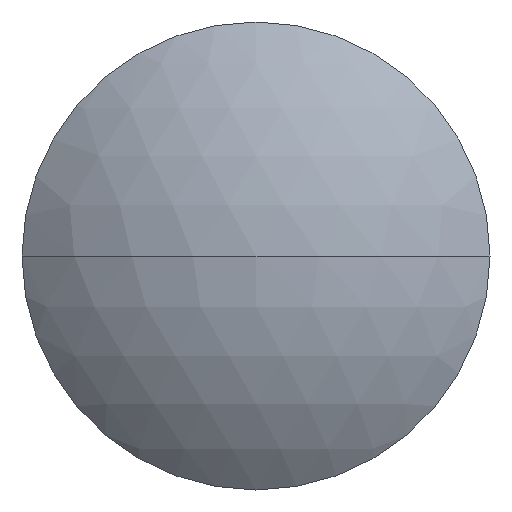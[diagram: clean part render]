
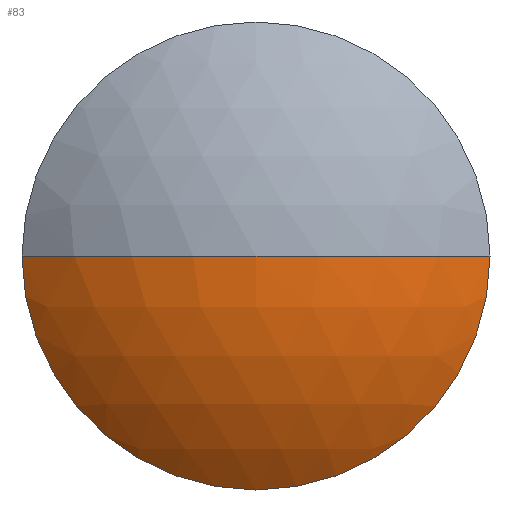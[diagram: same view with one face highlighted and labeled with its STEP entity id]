
A CAD part, left-side view. The second image highlights one B-rep face of the part: STEP entity #83.
In plain terms, the highlighted spherical face has radius 39.222 mm.
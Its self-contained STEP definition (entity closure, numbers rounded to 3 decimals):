
#1 = ORIENTED_EDGE ( 'NONE', *, *, #148, .T. ) ;
#3 = CIRCLE ( 'NONE', #343, 25. ) ;
#7 = EDGE_CURVE ( 'NONE', #325, #284, #20, .T. ) ;
#10 = CARTESIAN_POINT ( 'NONE',  ( 27.222, 0., 0. ) ) ;
#15 = DIRECTION ( 'NONE',  ( 0., 0., -1. ) ) ;
#16 = DIRECTION ( 'NONE',  ( 0., 0., 1. ) ) ;
#20 = CIRCLE ( 'NONE', #144, 25. ) ;
#29 = CARTESIAN_POINT ( 'NONE',  ( -3., 0., -25. ) ) ;
#31 = CARTESIAN_POINT ( 'NONE',  ( -3., 25., 0. ) ) ;
#35 = AXIS2_PLACEMENT_3D ( 'NONE', #260, #15, #313 ) ;
#36 = DIRECTION ( 'NONE',  ( 0., 0., -1. ) ) ;
#42 = CIRCLE ( 'NONE', #194, 39.222 ) ;
#77 = DIRECTION ( 'NONE',  ( 1., 0., 0. ) ) ;
#83 = ADVANCED_FACE ( 'NONE', ( #231 ), #311, .T. ) ;
#84 = VERTEX_POINT ( 'NONE', #153 ) ;
#90 = DIRECTION ( 'NONE',  ( 0., 1., 0. ) ) ;
#92 = CARTESIAN_POINT ( 'NONE',  ( -3., -25., 0. ) ) ;
#108 = EDGE_CURVE ( 'NONE', #254, #84, #42, .T. ) ;
#112 = DIRECTION ( 'NONE',  ( -1., 0., 0. ) ) ;
#117 = ORIENTED_EDGE ( 'NONE', *, *, #192, .T. ) ;
#129 = CARTESIAN_POINT ( 'NONE',  ( 27.222, 0., 0. ) ) ;
#131 = CIRCLE ( 'NONE', #324, 39.222 ) ;
#144 = AXIS2_PLACEMENT_3D ( 'NONE', #350, #112, #221 ) ;
#148 = EDGE_CURVE ( 'NONE', #254, #325, #3, .T. ) ;
#153 = CARTESIAN_POINT ( 'NONE',  ( -12., 0., 0. ) ) ;
#155 = DIRECTION ( 'NONE',  ( -1., 0., 0. ) ) ;
#183 = DIRECTION ( 'NONE',  ( 0., 0., 1. ) ) ;
#192 = EDGE_CURVE ( 'NONE', #284, #84, #131, .T. ) ;
#194 = AXIS2_PLACEMENT_3D ( 'NONE', #129, #183, #77 ) ;
#220 = EDGE_LOOP ( 'NONE', ( #1, #248, #117, #271 ) ) ;
#221 = DIRECTION ( 'NONE',  ( 0., 0., 1. ) ) ;
#231 = FACE_OUTER_BOUND ( 'NONE', #220, .T. ) ;
#248 = ORIENTED_EDGE ( 'NONE', *, *, #7, .T. ) ;
#254 = VERTEX_POINT ( 'NONE', #31 ) ;
#260 = CARTESIAN_POINT ( 'NONE',  ( 27.222, 0., 0. ) ) ;
#271 = ORIENTED_EDGE ( 'NONE', *, *, #108, .F. ) ;
#284 = VERTEX_POINT ( 'NONE', #92 ) ;
#291 = CARTESIAN_POINT ( 'NONE',  ( -3., 0., 0. ) ) ;
#311 = SPHERICAL_SURFACE ( 'NONE', #35, 39.222 ) ;
#313 = DIRECTION ( 'NONE',  ( 0., 1., 0. ) ) ;
#324 = AXIS2_PLACEMENT_3D ( 'NONE', #10, #36, #90 ) ;
#325 = VERTEX_POINT ( 'NONE', #29 ) ;
#343 = AXIS2_PLACEMENT_3D ( 'NONE', #291, #155, #16 ) ;
#350 = CARTESIAN_POINT ( 'NONE',  ( -3., 0., 0. ) ) ;
